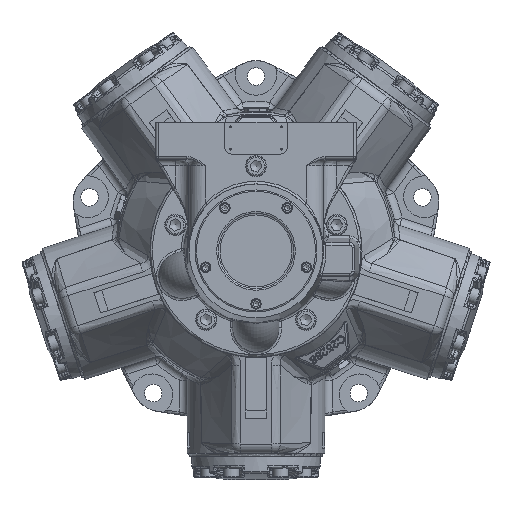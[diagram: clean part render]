
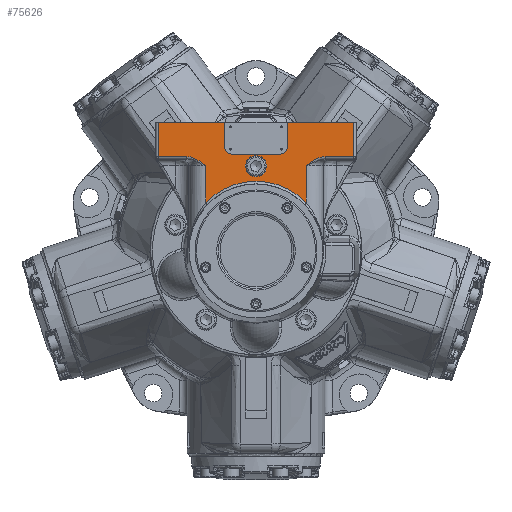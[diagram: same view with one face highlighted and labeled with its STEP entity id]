
A CAD part, top view. The second image highlights one B-rep face of the part: STEP entity #75626.
In plain terms, the highlighted planar face has unit normal (0, 0, 1).
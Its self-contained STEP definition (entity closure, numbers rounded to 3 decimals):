
#2692=LINE('',#110000,#6265);
#2711=LINE('',#110942,#6284);
#2745=LINE('',#111532,#6318);
#2750=LINE('',#111811,#6323);
#2752=LINE('',#111893,#6325);
#2772=LINE('',#126190,#6345);
#2779=LINE('',#126206,#6352);
#2780=LINE('',#126208,#6353);
#2804=LINE('',#126368,#6377);
#2805=LINE('',#126372,#6378);
#2806=LINE('',#126375,#6379);
#6265=VECTOR('',#87150,10.);
#6284=VECTOR('',#87217,10.);
#6318=VECTOR('',#87403,10.);
#6323=VECTOR('',#87448,10.);
#6325=VECTOR('',#87460,10.);
#6345=VECTOR('',#87724,10.);
#6352=VECTOR('',#87741,10.);
#6353=VECTOR('',#87742,10.);
#6377=VECTOR('',#87870,10.);
#6378=VECTOR('',#87873,10.);
#6379=VECTOR('',#87876,10.);
#9843=FACE_BOUND('',#16507,.T.);
#10201=PLANE('',#80615);
#11739=FACE_OUTER_BOUND('',#16506,.T.);
#16506=EDGE_LOOP('',(#47976,#47977,#47978,#47979,#47980,#47981,#47982,#47983,
#47984,#47985,#47986,#47987,#47988,#47989,#47990,#47991));
#16507=EDGE_LOOP('',(#47992));
#21330=CIRCLE('',#80495,83.375);
#21389=CIRCLE('',#80576,12.7);
#21404=CIRCLE('',#80616,8.);
#21405=CIRCLE('',#80617,8.);
#24206=B_SPLINE_CURVE_WITH_KNOTS('',3,(#111593,#111594,#111595,#111596,
#111597,#111598,#111599,#111600,#111601,#111602,#111603,#111604),
 .UNSPECIFIED.,.F.,.F.,(4,2,1,1,1,1,1,1,4),(-0.002,0.,0.504,
1.007,1.511,1.762,2.014,2.266,
2.518),.UNSPECIFIED.);
#24208=B_SPLINE_CURVE_WITH_KNOTS('',3,(#111877,#111878,#111879,#111880,
#111881,#111882,#111883,#111884,#111885,#111886,#111887,#111888),
 .UNSPECIFIED.,.F.,.F.,(4,1,1,1,1,1,1,2,4),(0.,0.504,0.755,
1.007,1.259,1.511,2.014,2.518,
2.519),.UNSPECIFIED.);
#28249=VERTEX_POINT('',#109997);
#28250=VERTEX_POINT('',#109999);
#28302=VERTEX_POINT('',#110928);
#28303=VERTEX_POINT('',#110941);
#28351=VERTEX_POINT('',#111528);
#28352=VERTEX_POINT('',#111530);
#28357=VERTEX_POINT('',#111808);
#28359=VERTEX_POINT('',#111876);
#28360=VERTEX_POINT('',#111891);
#28473=VERTEX_POINT('',#126188);
#28477=VERTEX_POINT('',#126204);
#28478=VERTEX_POINT('',#126207);
#28492=VERTEX_POINT('',#126236);
#28514=VERTEX_POINT('',#126367);
#28515=VERTEX_POINT('',#126369);
#28516=VERTEX_POINT('',#126371);
#28517=VERTEX_POINT('',#126373);
#35261=EDGE_CURVE('',#28249,#28250,#2692,.T.);
#35338=EDGE_CURVE('',#28302,#28303,#2711,.T.);
#35435=EDGE_CURVE('',#28352,#28351,#2745,.T.);
#35436=EDGE_CURVE('',#28303,#28352,#24206,.T.);
#35455=EDGE_CURVE('',#28351,#28357,#2750,.T.);
#35458=EDGE_CURVE('',#28359,#28249,#24208,.T.);
#35461=EDGE_CURVE('',#28360,#28359,#2752,.T.);
#35547=EDGE_CURVE('',#28250,#28302,#21330,.T.);
#35665=EDGE_CURVE('',#28473,#28360,#2772,.T.);
#35673=EDGE_CURVE('',#28473,#28477,#2779,.T.);
#35674=EDGE_CURVE('',#28478,#28357,#2780,.T.);
#35689=EDGE_CURVE('',#28492,#28492,#21389,.T.);
#35728=EDGE_CURVE('',#28477,#28514,#2804,.T.);
#35729=EDGE_CURVE('',#28514,#28515,#21404,.T.);
#35730=EDGE_CURVE('',#28515,#28516,#2805,.T.);
#35731=EDGE_CURVE('',#28516,#28517,#21405,.T.);
#35732=EDGE_CURVE('',#28517,#28478,#2806,.T.);
#47976=ORIENTED_EDGE('',*,*,#35728,.T.);
#47977=ORIENTED_EDGE('',*,*,#35729,.T.);
#47978=ORIENTED_EDGE('',*,*,#35730,.T.);
#47979=ORIENTED_EDGE('',*,*,#35731,.T.);
#47980=ORIENTED_EDGE('',*,*,#35732,.T.);
#47981=ORIENTED_EDGE('',*,*,#35674,.T.);
#47982=ORIENTED_EDGE('',*,*,#35455,.F.);
#47983=ORIENTED_EDGE('',*,*,#35435,.F.);
#47984=ORIENTED_EDGE('',*,*,#35436,.F.);
#47985=ORIENTED_EDGE('',*,*,#35338,.F.);
#47986=ORIENTED_EDGE('',*,*,#35547,.F.);
#47987=ORIENTED_EDGE('',*,*,#35261,.F.);
#47988=ORIENTED_EDGE('',*,*,#35458,.F.);
#47989=ORIENTED_EDGE('',*,*,#35461,.F.);
#47990=ORIENTED_EDGE('',*,*,#35665,.F.);
#47991=ORIENTED_EDGE('',*,*,#35673,.T.);
#47992=ORIENTED_EDGE('',*,*,#35689,.T.);
#75626=ADVANCED_FACE('',(#11739,#9843),#10201,.T.);
#80495=AXIS2_PLACEMENT_3D('',#113641,#87591,#87592);
#80576=AXIS2_PLACEMENT_3D('',#126238,#87770,#87771);
#80615=AXIS2_PLACEMENT_3D('',#126366,#87868,#87869);
#80616=AXIS2_PLACEMENT_3D('',#126370,#87871,#87872);
#80617=AXIS2_PLACEMENT_3D('',#126374,#87874,#87875);
#87150=DIRECTION('',(0.,-1.,0.));
#87217=DIRECTION('',(0.,1.,0.));
#87403=DIRECTION('',(-1.,0.,0.));
#87448=DIRECTION('',(0.,1.,0.));
#87460=DIRECTION('',(-1.,0.,0.));
#87591=DIRECTION('center_axis',(0.,0.,
1.));
#87592=DIRECTION('ref_axis',(0.,1.,0.));
#87724=DIRECTION('',(0.,-1.,0.));
#87741=DIRECTION('',(-1.,0.,0.));
#87742=DIRECTION('',(-1.,0.,0.));
#87770=DIRECTION('center_axis',(0.,0.,
-1.));
#87771=DIRECTION('ref_axis',(-1.,0.,0.));
#87868=DIRECTION('center_axis',(0.,0.,
1.));
#87869=DIRECTION('ref_axis',(-1.,0.,0.));
#87870=DIRECTION('',(0.,-1.,0.));
#87871=DIRECTION('center_axis',(0.,0.,
-1.));
#87872=DIRECTION('ref_axis',(0.,-1.,0.));
#87873=DIRECTION('',(-1.,0.,0.));
#87874=DIRECTION('center_axis',(0.,0.,
-1.));
#87875=DIRECTION('ref_axis',(-1.,0.,0.));
#87876=DIRECTION('',(0.,1.,0.));
#109997=CARTESIAN_POINT('',(60.478,102.,319.82));
#109999=CARTESIAN_POINT('',(60.478,57.392,319.82));
#110000=CARTESIAN_POINT('',(60.478,134.5,319.82));
#110928=CARTESIAN_POINT('',(-60.478,57.392,319.82));
#110941=CARTESIAN_POINT('',(-60.478,102.,319.82));
#110942=CARTESIAN_POINT('',(-60.478,79.5,319.82));
#111528=CARTESIAN_POINT('',(-117.,113.,319.82));
#111530=CARTESIAN_POINT('',(-82.727,113.,319.82));
#111532=CARTESIAN_POINT('',(60.,113.,319.82));
#111593=CARTESIAN_POINT('Ctrl Pts',(-60.478,102.,319.82));
#111594=CARTESIAN_POINT('Ctrl Pts',(-60.483,102.004,
319.82));
#111595=CARTESIAN_POINT('Ctrl Pts',(-60.488,102.008,319.82));
#111596=CARTESIAN_POINT('Ctrl Pts',(-61.801,103.064,
319.82));
#111597=CARTESIAN_POINT('Ctrl Pts',(-64.445,105.191,
319.82));
#111598=CARTESIAN_POINT('Ctrl Pts',(-68.576,108.18,
319.82));
#111599=CARTESIAN_POINT('Ctrl Pts',(-72.226,110.283,319.82));
#111600=CARTESIAN_POINT('Ctrl Pts',(-75.303,111.601,
319.82));
#111601=CARTESIAN_POINT('Ctrl Pts',(-77.711,112.374,319.82));
#111602=CARTESIAN_POINT('Ctrl Pts',(-80.205,112.879,
319.82));
#111603=CARTESIAN_POINT('Ctrl Pts',(-81.888,113.,319.82));
#111604=CARTESIAN_POINT('Ctrl Pts',(-82.727,113.,319.82));
#111808=CARTESIAN_POINT('',(-117.,154.,319.82));
#111811=CARTESIAN_POINT('',(-117.,159.,319.82));
#111876=CARTESIAN_POINT('',(82.727,113.,319.82));
#111877=CARTESIAN_POINT('Ctrl Pts',(82.727,113.,319.82));
#111878=CARTESIAN_POINT('Ctrl Pts',(81.049,113.,319.82));
#111879=CARTESIAN_POINT('Ctrl Pts',(78.513,112.632,319.82));
#111880=CARTESIAN_POINT('Ctrl Pts',(75.303,111.6,319.82));
#111881=CARTESIAN_POINT('Ctrl Pts',(72.995,110.612,319.82));
#111882=CARTESIAN_POINT('Ctrl Pts',(70.765,109.441,319.82));
#111883=CARTESIAN_POINT('Ctrl Pts',(67.888,107.682,319.82));
#111884=CARTESIAN_POINT('Ctrl Pts',(64.444,105.19,319.82));
#111885=CARTESIAN_POINT('Ctrl Pts',(61.801,103.064,319.82));
#111886=CARTESIAN_POINT('Ctrl Pts',(60.488,102.008,319.82));
#111887=CARTESIAN_POINT('Ctrl Pts',(60.483,102.004,319.82));
#111888=CARTESIAN_POINT('Ctrl Pts',(60.478,102.,319.82));
#111891=CARTESIAN_POINT('',(117.,113.,319.82));
#111893=CARTESIAN_POINT('',(60.,113.,319.82));
#113641=CARTESIAN_POINT('Origin',(0.,0.,
319.82));
#126188=CARTESIAN_POINT('',(117.,154.,319.82));
#126190=CARTESIAN_POINT('',(117.,159.,319.82));
#126204=CARTESIAN_POINT('',(37.5,154.,319.82));
#126206=CARTESIAN_POINT('',(149.802,154.,319.82));
#126207=CARTESIAN_POINT('',(-37.5,154.,319.82));
#126208=CARTESIAN_POINT('',(149.802,154.,319.82));
#126236=CARTESIAN_POINT('',(12.7,101.6,319.82));
#126238=CARTESIAN_POINT('Origin',(0.,101.6,319.82));
#126366=CARTESIAN_POINT('Origin',(120.,159.,319.82));
#126367=CARTESIAN_POINT('',(37.5,124.,319.82));
#126368=CARTESIAN_POINT('',(37.5,156.5,319.82));
#126369=CARTESIAN_POINT('',(29.5,116.,319.82));
#126370=CARTESIAN_POINT('Origin',(29.5,124.,319.82));
#126371=CARTESIAN_POINT('',(-29.5,116.,319.82));
#126372=CARTESIAN_POINT('',(74.75,116.,319.82));
#126373=CARTESIAN_POINT('',(-37.5,124.,319.82));
#126374=CARTESIAN_POINT('Origin',(-29.5,124.,319.82));
#126375=CARTESIAN_POINT('',(-37.5,141.5,319.82));
